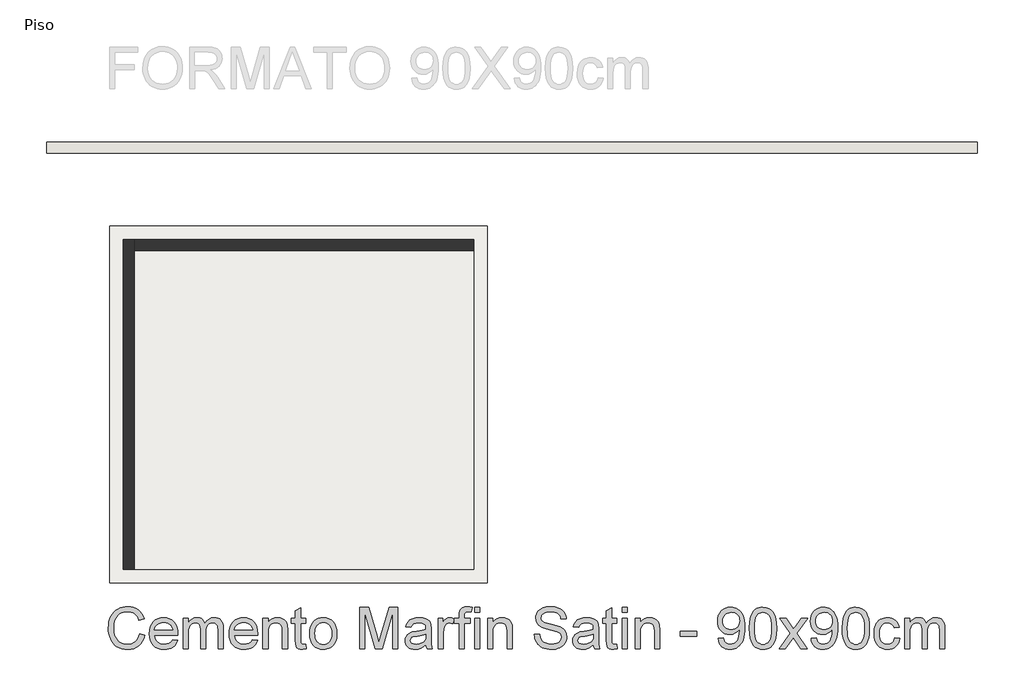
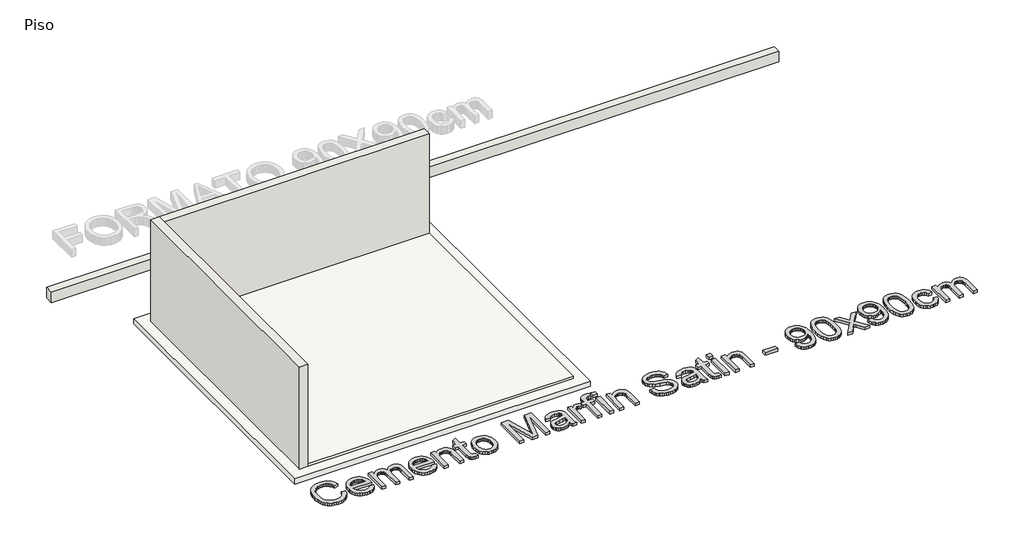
# One storey, part 1 of 2: 3 walls, 2 slabs, 1 proxy.
"""IFC4 building model written with IfcOpenShell, lengths in millimetres."""

from ifc_helpers import new_model, si_unit, frame, origin, origin_with_axes, place, context, project, spatial, polyline, outline, extrude, faceted_brep, element, save

model = new_model("IFC4")

# Units and contexts
model_context = context("Model", 3, world=origin())
ifc_project = project(units=[si_unit("LENGTHUNIT", "METRE", prefix="MILLI")], contexts=[model_context])

# Site, building, storey
site = spatial("IfcSite", under=ifc_project)
building = spatial("IfcBuilding", under=site)
storey = spatial("IfcBuildingStorey", under=building, Name="Piso", Elevation=0.0)

# Proxy
placement = place(None, origin())
element("IfcBuildingElementProxy", 1, Name="600mm Arial", ObjectType="600mm Arial", at=placement, inside=storey, context=model_context, shape_type="SweptSolid", body=[
    extrude(outline(polyline([(93035.0933182, -5211.4328599), (93110.4355508, -5230.8570293), (93095.527133, -5277.7113999), (93075.6707023, -5318.6520674), (93050.8662588, -5353.6790319), (93021.1138024, -5382.7922933), (92987.0847179, -5405.6791519), (92949.4503897, -5422.0269081), (92908.2108181, -5431.8355618), (92863.3660029, -5435.105113), (92817.4221402, -5432.6311066), (92775.9756349, -5425.2090873), (92739.026487, -5412.8390552), (92706.5746965, -5395.5210103), (92678.1742065, -5373.51247), (92653.37896, -5347.0709516), (92632.1889571, -5316.1964551), (92614.6041977, -5280.8889806), (92600.7948273, -5242.6752384), (92590.9309913, -5203.0819386), (92585.0126897, -5162.1090814), (92583.0399225, -5119.7566667), (92585.2702071, -5074.3140433), (92591.9610609, -5031.8696581), (92603.1124839, -4992.4235112), (92618.7244761, -4955.9756025), (92638.4475495, -4923.1283388), (92661.9322164, -4894.484127), (92689.1784767, -4870.0429669), (92720.1863304, -4849.8048587), (92753.9027152, -4833.9353491), (92789.274569, -4822.5999851), (92826.3018919, -4815.7987667), (92864.9846837, -4813.5316939), (92908.0774609, -4816.4655529), (92947.5925857, -4825.2671296), (92983.5300581, -4839.9364242), (93015.8898781, -4860.4734365), (93044.1386168, -4886.3355408), (93067.7428453, -4916.980111), (93086.7025636, -4952.4071471), (93101.0177718, -4992.6166492), (93025.6755391, -5010.5692906), (93013.8113448, -4980.9409944), (92999.5559175, -4955.6261146), (92982.9092572, -4934.6246512), (92963.871364, -4917.9366042), (92942.3318731, -4905.2216827), (92918.1804202, -4896.139596), (92891.417005, -4890.6903439), (92862.0416277, -4888.8739266), (92828.2424694, -4890.8880805), (92797.3311847, -4896.9305423), (92769.3077738, -4907.0013119), (92744.1722364, -4921.1003893), (92722.241871, -4938.5931782), (92703.8339757, -4958.845082), (92688.9485504, -4981.8561008), (92677.5855953, -5007.6262346), (92663.1830152, -5062.7717457), (92658.3821552, -5119.6095139), (92664.065932, -5189.2127874), (92671.170653, -5220.482757), (92681.1172625, -5249.3982818), (92694.0667087, -5275.3845463), (92710.1799401, -5297.8667347), (92729.4569566, -5316.8448471), (92751.8977583, -5332.3188835), (92776.4124948, -5344.3256322), (92801.9113156, -5352.9018812), (92828.3942207, -5358.0476306), (92855.8612102, -5359.7628804), (92888.6165033, -5357.4268297), (92918.7506372, -5350.4186777), (92946.263612, -5338.7384244), (92971.1554275, -5322.3860697), (92992.8374726, -5301.4351901), (93010.721136, -5275.9593619), (93024.8064179, -5245.9585852), (93035.0933182, -5211.4328599)])), origin_with_axes(), (0.0, 0.0, 1.0), 50.0),
    extrude(outline(polyline([(93514.5171343, -5293.8384269), (93588.387839, -5303.2562059), (93577.061672, -5332.8431154), (93561.7715766, -5358.9167518), (93542.5175527, -5381.4771152), (93519.2996003, -5400.5242055), (93492.3568427, -5415.6533525), (93461.9284031, -5426.4598861), (93428.0142817, -5432.9438063), (93390.6144784, -5435.105113), (93343.8658738, -5431.3757093), (93302.2124349, -5420.1874981), (93265.6541616, -5401.5404795), (93234.191054, -5375.4346534), (93208.8899698, -5342.5965868), (93190.8177668, -5303.7528466), (93179.974445, -5258.9034329), (93176.3600044, -5208.0483456), (93180.0112332, -5155.4688114), (93190.9649196, -5109.1248771), (93209.2210636, -5069.0165425), (93234.7796652, -5035.1438078), (93266.1599994, -5008.2332399), (93301.8813411, -4989.0114056), (93341.9436904, -4977.4783051), (93386.3470472, -4973.6339382), (93429.3202628, -4977.469108), (93468.182397, -4988.9746174), (93502.93345, -5008.1504664), (93533.5734217, -5034.996655), (93558.5847988, -5068.7958134), (93576.4500682, -5108.8305715), (93587.1692299, -5155.1009294), (93590.7422837, -5207.6068872), (93590.3008253, -5227.9139733), (93251.702237, -5227.9139733), (93256.0662372, -5257.9791294), (93264.7436537, -5284.3102832), (93277.7344867, -5306.9074347), (93295.038736, -5325.770584), (93315.6999086, -5340.6422137), (93338.7615111, -5351.2648063), (93364.2235437, -5357.6383619), (93392.0860063, -5359.7628804), (93432.1851438, -5355.826543), (93465.956711, -5344.017531), (93493.4007078, -5323.6000803), (93514.5171343, -5293.8384269)]), holes=[polyline([(93251.702237, -5152.5717407), (93515.4000511, -5152.5717407), (93505.2097199, -5112.7669088), (93496.4449313, -5097.1135299), (93485.2337275, -5084.2928424), (93464.6875181, -5068.8417986), (93441.3086173, -5057.8053387), (93415.0970251, -5051.1834628), (93386.0527416, -5048.9761709), (93359.5606394, -5050.7374059), (93335.2666322, -5056.0211111), (93313.1707199, -5064.8272863), (93293.2729024, -5077.1559317), (93276.5756584, -5092.4368301), (93264.0814661, -5110.0997644), (93255.7903257, -5130.1447346), (93251.702237, -5152.5717407)])]), origin_with_axes(), (0.0, 0.0, 1.0), 50.0),
    extrude(outline(polyline([(93666.0845163, -5425.6873339), (93666.0845163, -4983.0517173), (93741.426749, -4983.0517173), (93741.426749, -5055.8923524), (93764.0882799, -5022.4334849), (93793.2245339, -4996.2218928), (93827.8422296, -4979.2809269), (93866.9480857, -4973.6339382), (93908.849845, -4979.3912915), (93926.6829247, -4986.587983), (93942.4374711, -4996.6633511), (93967.5270232, -5024.3096831), (93983.9345602, -5061.1898531), (94011.3969511, -5022.8841404), (94042.722103, -4995.522917), (94077.9100159, -4979.1061829), (94116.9606896, -4973.6339382), (94147.1224147, -4975.9102081), (94173.5961228, -4982.7390176), (94196.3818139, -4994.1203669), (94215.4794879, -5010.0542558), (94230.5764453, -5030.7246254), (94241.3599863, -5056.3154167), (94247.8301109, -5086.8266296), (94249.9868191, -5122.2582643), (94249.9868191, -5425.6873339), (94174.6445865, -5425.6873339), (94174.6445865, -5154.6318799), (94172.897147, -5117.0527341), (94167.6548286, -5091.7240587), (94157.8323793, -5074.3784226), (94142.3445473, -5060.7483947), (94122.4237373, -5051.9192268), (94099.3023539, -5048.9761709), (94077.9514026, -5050.8615661), (94058.4858465, -5056.5177518), (94040.9056857, -5065.9447279), (94025.21092, -5079.1424945), (94012.3028605, -5096.4973276), (94003.082818, -5118.3955034), (93997.5507925, -5144.8370218), (93995.706784, -5175.8218828), (93995.706784, -5425.6873339), (93920.3645514, -5425.6873339), (93920.3645514, -5146.2441704), (93916.0051498, -5103.6434353), (93910.5558977, -5086.9231987), (93902.9269448, -5073.2563825), (93892.8147885, -5062.6337899), (93879.915926, -5055.0462238), (93864.2303575, -5050.4936841), (93845.7580828, -5048.9761709), (93816.7321934, -5053.0228728), (93789.9871723, -5065.1629786), (93767.9142526, -5085.1021828), (93752.9046672, -5112.5461796), (93744.2962285, -5150.6219661), (93741.426749, -5202.4565392), (93741.426749, -5425.6873339), (93666.0845163, -5425.6873339)])), origin_with_axes(), (0.0, 0.0, 1.0), 50.0),
    extrude(outline(polyline([(94672.9039607, -5293.8384269), (94746.7746654, -5303.2562059), (94735.4484985, -5332.8431154), (94720.158403, -5358.9167518), (94700.9043791, -5381.4771152), (94677.6864267, -5400.5242055), (94650.7436691, -5415.6533525), (94620.3152295, -5426.4598861), (94586.4011081, -5432.9438063), (94549.0013048, -5435.105113), (94502.2527002, -5431.3757093), (94460.5992613, -5420.1874981), (94424.0409881, -5401.5404795), (94392.5778804, -5375.4346534), (94367.2767962, -5342.5965868), (94349.2045932, -5303.7528466), (94338.3612714, -5258.9034329), (94334.7468308, -5208.0483456), (94338.3980596, -5155.4688114), (94349.351746, -5109.1248771), (94367.60789, -5069.0165425), (94393.1664916, -5035.1438078), (94424.5468258, -5008.2332399), (94460.2681675, -4989.0114056), (94500.3305168, -4977.4783051), (94544.7338736, -4973.6339382), (94587.7070892, -4977.469108), (94626.5692235, -4988.9746174), (94661.3202764, -5008.1504664), (94691.9602481, -5034.996655), (94716.9716252, -5068.7958134), (94734.8368946, -5108.8305715), (94745.5560563, -5155.1009294), (94749.1291101, -5207.6068872), (94748.6876518, -5227.9139733), (94410.0890634, -5227.9139733), (94414.4530636, -5257.9791294), (94423.1304801, -5284.3102832), (94436.1213131, -5306.9074347), (94453.4255624, -5325.770584), (94474.086735, -5340.6422137), (94497.1483376, -5351.2648063), (94522.6103701, -5357.6383619), (94550.4728328, -5359.7628804), (94590.5719702, -5355.826543), (94624.3435374, -5344.017531), (94651.7875342, -5323.6000803), (94672.9039607, -5293.8384269)]), holes=[polyline([(94410.0890634, -5152.5717407), (94673.7868775, -5152.5717407), (94663.5965463, -5112.7669088), (94654.8317577, -5097.1135299), (94643.6205539, -5084.2928424), (94623.0743445, -5068.8417986), (94599.6954437, -5057.8053387), (94573.4838516, -5051.1834628), (94544.439568, -5048.9761709), (94517.9474659, -5050.7374059), (94493.6534586, -5056.0211111), (94471.5575463, -5064.8272863), (94451.6597288, -5077.1559317), (94434.9624848, -5092.4368301), (94422.4682925, -5110.0997644), (94414.1771521, -5130.1447346), (94410.0890634, -5152.5717407)])]), origin_with_axes(), (0.0, 0.0, 1.0), 50.0),
    extrude(outline(polyline([(94824.4713428, -5425.6873339), (94824.4713428, -4983.0517173), (94899.8135754, -4983.0517173), (94899.8135754, -5044.8558925), (94925.9883793, -5013.6962875), (94957.4238958, -4991.4394268), (94994.1201248, -4978.0853104), (95036.0770664, -4973.6339382), (95073.2147538, -4977.2207877), (95107.2254443, -4987.9813361), (95135.5891461, -5004.572814), (95155.7858676, -5025.6524524), (95169.4894719, -5051.1650687), (95178.3738221, -5081.0554808), (95182.3469477, -5153.8961159), (95182.3469477, -5425.6873339), (95107.0047151, -5425.6873339), (95107.0047151, -5164.049659), (95104.8342113, -5125.0909557), (95098.3227, -5097.3894414), (95086.3113528, -5077.5422078), (95067.6413416, -5062.1463463), (95043.7106178, -5052.2687147), (95015.9171331, -5048.9761709), (94993.0394715, -5050.8247779), (94971.7896877, -5056.370599), (94952.1677818, -5065.6136341), (94934.1737537, -5078.5538833), (94919.1411757, -5096.6628745), (94908.40362, -5121.4121357), (94901.9610865, -5152.8016669), (94899.8135754, -5190.8314682), (94899.8135754, -5425.6873339), (94824.4713428, -5425.6873339)])), origin_with_axes(), (0.0, 0.0, 1.0), 50.0),
    extrude(outline(polyline([(95446.0447618, -5362.8530891), (95455.4625409, -5427.8946259), (95399.1030192, -5435.105113), (95362.9402191, -5431.978116), (95335.9744689, -5422.5971252), (95316.9181815, -5408.1393628), (95304.4837701, -5389.7820512), (95297.641165, -5358.2545642), (95295.3602966, -5304.2862755), (95295.3602966, -5058.3939499), (95238.8536221, -5058.3939499), (95238.8536221, -4983.0517173), (95295.3602966, -4983.0517173), (95295.3602966, -4875.4830219), (95370.7025292, -4831.1900297), (95370.7025292, -4983.0517173), (95446.0447618, -4983.0517173), (95446.0447618, -5058.3939499), (95370.7025292, -5058.3939499), (95370.7025292, -5302.0789835), (95374.6756547, -5340.9273222), (95387.5515246, -5354.6861089), (95398.4224375, -5358.4936875), (95413.2296878, -5359.7628804), (95446.0447618, -5362.8530891)])), origin_with_axes(), (0.0, 0.0, 1.0), 50.0),
    extrude(outline(polyline([(95502.5514363, -5204.3695256), (95506.6257294, -5147.0443137), (95518.8486087, -5097.6469588), (95539.2200741, -5056.1774609), (95567.7401258, -5022.63582), (95596.4533155, -5001.1974967), (95628.1463494, -4985.8844087), (95662.8192275, -4976.6965559), (95700.4719497, -4973.6339382), (95742.0380166, -4977.363342), (95779.6217609, -4988.5515532), (95813.2231827, -5007.1985718), (95842.8422818, -5033.3043979), (95867.0167274, -5065.9861146), (95884.2841886, -5104.3608052), (95894.6446653, -5148.4284697), (95898.0981575, -5198.1891081), (95896.5714472, -5238.5181718), (95891.9913164, -5274.3038929), (95884.357765, -5305.5462713), (95873.670793, -5332.2453071), (95860.0637577, -5355.3069097), (95843.6700163, -5375.6369885), (95824.4895688, -5393.2355434), (95802.5224151, -5408.1025746), (95778.623881, -5419.9161851), (95753.6492921, -5428.3544784), (95727.5986483, -5433.4174543), (95700.4719497, -5435.105113), (95658.2988775, -5431.3895048), (95620.3656452, -5420.2426804), (95586.672253, -5401.6646396), (95557.2187008, -5375.6553826), (95533.3017725, -5342.6563676), (95516.2182524, -5303.1090531), (95505.9681403, -5257.0134391), (95502.5514363, -5204.3695256)]), holes=[polyline([(95577.8936689, -5204.2223728), (95580.0733697, -5240.7668505), (95586.6124722, -5272.4093006), (95597.5109763, -5299.1497232), (95612.768882, -5320.9881181), (95631.3285287, -5337.9520766), (95652.1322555, -5350.0691898), (95675.1800625, -5357.3394577), (95700.4719497, -5359.7628804), (95725.6350781, -5357.3256622), (95748.5909146, -5350.0140075), (95769.3394592, -5337.8279164), (95787.8807117, -5320.7673889), (95803.1386175, -5298.7128633), (95814.0371216, -5271.5447779), (95820.5762241, -5239.2631329), (95822.7559249, -5201.8679281), (95820.5624285, -5166.4822786), (95813.9819393, -5135.667563), (95803.0144573, -5109.4237812), (95787.6599825, -5087.7509332), (95769.0497521, -5070.7869747), (95748.3150031, -5058.6698614), (95725.4557357, -5051.3995935), (95700.4719497, -5048.9761709), (95675.1800625, -5051.3903965), (95652.1322555, -5058.6330732), (95631.3285287, -5070.7042012), (95612.768882, -5087.6037804), (95597.5109763, -5109.3777959), (95586.6124722, -5136.0722332), (95580.0733697, -5167.6870922), (95577.8936689, -5204.2223728)])]), origin_with_axes(), (0.0, 0.0, 1.0), 50.0),
    extrude(outline(polyline([(96227.7204252, -5425.6873339), (96227.7204252, -4822.949473), (96357.3620403, -4822.949473), (96480.676085, -5247.7796011), (96505.5449079, -5336.5127383), (96532.47387, -5240.4219612), (96653.7277756, -4822.949473), (96783.3693907, -4822.949473), (96783.3693907, -5425.6873339), (96708.0271581, -5425.6873339), (96708.0271581, -4898.2917056), (96556.6069289, -5425.6873339), (96454.482887, -5425.6873339), (96303.0626578, -4898.2917056), (96303.0626578, -5425.6873339), (96227.7204252, -5425.6873339)])), origin_with_axes(), (0.0, 0.0, 1.0), 50.0),
    extrude(outline(polyline([(97188.333891, -5369.1806595), (97152.3366377, -5400.0459589), (97115.2725267, -5420.2426804), (97076.2954293, -5431.3895048), (97034.559217, -5435.105113), (97001.0129776, -5432.8702299), (96971.5962135, -5426.1655805), (96946.3089249, -5414.9911649), (96925.1511116, -5399.3469831), (96908.4446705, -5380.2263164), (96896.5114983, -5358.6224462), (96889.351595, -5334.5353726), (96886.9649605, -5307.9650955), (96890.5702041, -5276.7319141), (96901.3859347, -5248.3682122), (96918.0693832, -5224.0880006), (96939.2777802, -5205.1052896), (96964.2017854, -5190.7578918), (96992.0320583, -5180.3836195), (97057.2207479, -5169.0528541), (97134.2552377, -5157.1334774), (97187.8924326, -5143.1539616), (97188.333891, -5126.3785426), (97183.1467548, -5092.7541283), (97176.6628347, -5080.3013228), (97167.5853464, -5070.754785), (97151.8951793, -5061.2266413), (97132.7837097, -5054.4208244), (97084.2968627, -5048.9761709), (97039.4152593, -5052.5998085), (97008.0717133, -5063.4707215), (96986.6977694, -5083.5754725), (96971.7249722, -5114.9006244), (96896.3827396, -5105.4828453), (96909.4609445, -5064.2800619), (96928.9770844, -5031.9064463), (96956.752175, -5007.147988), (96994.6072323, -4988.7906765), (97040.9051814, -4977.4231228), (97094.0089474, -4973.6339382), (97144.9422096, -4976.9816644), (97185.3172586, -4987.0248429), (97215.7594937, -5002.1263988), (97236.8943143, -5020.6492572), (97250.9106183, -5043.5499114), (97259.9973036, -5071.7848546), (97263.6761236, -5137.7093081), (97263.6761236, -5231.4456405), (97267.5020963, -5362.3380544), (97273.1674791, -5394.6932758), (97282.5116817, -5425.6873339), (97207.1694491, -5425.6873339), (97195.1029197, -5399.4941359), (97188.333891, -5369.1806595)]), holes=[polyline([(97188.333891, -5218.4961942), (97137.7133284, -5231.0409703), (97066.7856798, -5241.5991835), (97001.9648722, -5253.8128658), (96985.0974827, -5262.1637871), (96972.607889, -5273.6784935), (96964.8823671, -5287.4740683), (96962.3071931, -5302.6675947), (96967.9173936, -5325.0716082), (96984.7479948, -5343.4289198), (97012.431115, -5355.6793902), (97050.598872, -5359.7628804), (97091.0658914, -5355.2563259), (97126.8240214, -5341.7366626), (97155.8131226, -5321.8158526), (97175.9730559, -5298.105858), (97184.9125884, -5273.6784935), (97187.8924326, -5239.83335), (97188.333891, -5218.4961942)])]), origin_with_axes(), (0.0, 0.0, 1.0), 50.0),
    extrude(outline(polyline([(97668.6406239, -5425.6873339), (97668.6406239, -5058.3939499), (97602.7161703, -5058.3939499), (97602.7161703, -4996.8840803), (97602.7161703, -4983.0517173), (97668.6406239, -4983.0517173), (97668.6406239, -4938.4644195), (97670.6271866, -4901.5658554), (97676.586875, -4875.6301747), (97691.7436132, -4850.5774109), (97715.1409081, -4830.7485713), (97747.8824056, -4817.8359133), (97791.0717519, -4813.5316939), (97823.7764612, -4815.5918331), (97859.7921086, -4821.7722506), (97848.7556487, -4892.4055937), (97805.3455733, -4888.8739266), (97776.70596, -4892.0009235), (97757.8887959, -4901.3819144), (97747.4593413, -4919.2977676), (97743.9828565, -4948.0293514), (97743.9828565, -4983.0517173), (97828.7428682, -4983.0517173), (97828.7428682, -5058.3939499), (97743.9828565, -5058.3939499), (97743.9828565, -5425.6873339), (97668.6406239, -5425.6873339)])), origin_with_axes(), (0.0, 0.0, 1.0), 50.0),
    extrude(outline(polyline([(97367.2716934, -5425.6873339), (97367.2716934, -4983.0517173), (97433.196147, -4983.0517173), (97433.196147, -5048.5347125), (97457.549935, -5010.5692906), (97479.9907367, -4988.2020653), (97502.5051149, -4977.27597), (97527.0796321, -4973.6339382), (97564.6035956, -4979.4464738), (97602.7161703, -4996.8840803), (97577.5530419, -5064.4272147), (97551.0655382, -5052.8389318), (97524.5780346, -5048.9761709), (97502.0820506, -5052.691779), (97481.9772995, -5063.8386035), (97465.7353094, -5081.5705156), (97454.8276083, -5105.0413869), (97445.6673466, -5147.1270872), (97442.613926, -5193.0387602), (97442.613926, -5425.6873339), (97367.2716934, -5425.6873339)])), origin_with_axes(), (0.0, 0.0, 1.0), 50.0),
    extrude(outline(polyline([(97894.6673217, -4898.2917056), (97894.6673217, -4822.949473), (97970.0095543, -4822.949473), (97970.0095543, -4898.2917056), (97894.6673217, -4898.2917056)])), origin_with_axes(), (0.0, 0.0, 1.0), 50.0),
    extrude(outline(polyline([(97894.6673217, -5425.6873339), (97894.6673217, -4983.0517173), (97970.0095543, -4983.0517173), (97970.0095543, -5425.6873339), (97894.6673217, -5425.6873339)])), origin_with_axes(), (0.0, 0.0, 1.0), 50.0),
    extrude(outline(polyline([(98083.0229032, -5425.6873339), (98083.0229032, -4983.0517173), (98158.3651359, -4983.0517173), (98158.3651359, -5044.8558925), (98184.5399398, -5013.6962875), (98215.9754563, -4991.4394268), (98252.6716853, -4978.0853104), (98294.6286269, -4973.6339382), (98331.7663143, -4977.2207877), (98365.7770047, -4987.9813361), (98394.1407066, -5004.572814), (98414.3374281, -5025.6524524), (98428.0410324, -5051.1650687), (98436.9253826, -5081.0554808), (98440.8985081, -5153.8961159), (98440.8985081, -5425.6873339), (98365.5562755, -5425.6873339), (98365.5562755, -5164.049659), (98363.3857718, -5125.0909557), (98356.8742604, -5097.3894414), (98344.8629133, -5077.5422078), (98326.1929021, -5062.1463463), (98302.2621783, -5052.2687147), (98274.4686935, -5048.9761709), (98251.591032, -5050.8247779), (98230.3412482, -5056.370599), (98210.7193423, -5065.6136341), (98192.7253142, -5078.5538833), (98177.6927362, -5096.6628745), (98166.9551804, -5121.4121357), (98160.512647, -5152.8016669), (98158.3651359, -5190.8314682), (98158.3651359, -5425.6873339), (98083.0229032, -5425.6873339)])), origin_with_axes(), (0.0, 0.0, 1.0), 50.0),
    extrude(outline(polyline([(98761.1029967, -5218.4961942), (98836.4452294, -5218.4961942), (98845.0904562, -5260.305983), (98860.725441, -5293.9120032), (98885.1160173, -5320.5834479), (98920.0280187, -5341.5895098), (98962.7023301, -5355.2195377), (99010.3798367, -5359.7628804), (99052.3551723, -5356.3231837), (99089.1065836, -5346.0040938), (99118.8866312, -5329.6701332), (99139.9478754, -5308.1858247), (99152.4742573, -5283.5193369), (99156.649718, -5257.6388385), (99153.522721, -5232.4205278), (99144.1417301, -5210.6235195), (99125.0854428, -5192.0270847), (99092.9325564, -5176.410494), (98983.2301454, -5147.642122), (98911.2172449, -5128.6042287), (98865.140025, -5110.4860405), (98827.6344556, -5085.138971), (98801.0549814, -5054.4208244), (98785.2176615, -5018.9937883), (98779.9385549, -4979.5200502), (98781.5710313, -4957.083847), (98786.4684603, -4935.3926049), (98794.6308421, -4914.4463237), (98806.0581766, -4894.2450037), (98820.621705, -4875.6117806), (98838.1926688, -4859.3697905), (98858.7710679, -4845.5190334), (98882.3569024, -4834.0595093), (98935.3686979, -4818.6636478), (98994.0458761, -4813.5316939), (99057.6158849, -4818.9027711), (99113.2396425, -4835.0160025), (99137.5750365, -4847.0181526), (99158.9305863, -4861.5402943), (99177.306292, -4878.5824277), (99192.7021535, -4898.1445528), (99204.9986092, -4919.6564525), (99214.0760974, -4942.5479097), (99219.9346182, -4966.8189243), (99222.5741715, -4992.4694964), (99147.2319389, -4992.4694964), (99142.1919556, -4968.428408), (99133.3995759, -4947.5143166), (99120.8547998, -4929.7272221), (99104.5576274, -4915.0671246), (99084.2045561, -4903.6076005), (99059.492083, -4895.4222261), (99030.4202084, -4890.5110014), (98996.9889321, -4888.8739266), (98962.490798, -4890.4926073), (98933.0142531, -4895.3486497), (98908.5592975, -4903.4420536), (98889.1259311, -4914.772819), (98874.3186808, -4928.3936499), (98863.7420734, -4943.35725), (98857.396109, -4959.6636195), (98855.2807875, -4977.3127582), (98856.7799066, -4992.4970876), (98861.277264, -5006.2650712), (98868.7728597, -5018.6167092), (98879.2666936, -5029.5520015), (98895.7845952, -5039.9078797), (98921.7938522, -5050.3741224), (99002.2864328, -5071.6377018), (99085.3541873, -5091.8344233), (99135.6068678, -5109.4559709), (99178.5570908, -5136.7896031), (99195.1623643, -5152.8568492), (99208.5210793, -5170.5243821), (99218.7895855, -5189.7002311), (99226.1242328, -5210.2924257), (99231.9919506, -5255.7258522), (99230.3042919, -5279.2932925), (99225.241316, -5302.170954), (99216.8030227, -5324.3588369), (99204.9894121, -5345.856941), (99190.0074179, -5365.8329333), (99172.0639736, -5383.4544809), (99151.1590792, -5398.7215837), (99127.2927347, -5411.6342417), (99101.1593175, -5421.9027479), (99073.4532048, -5429.2373952), (99013.3228926, -5435.105113), (98974.7826551, -5433.5232204), (98939.5073703, -5428.7775427), (98907.4970382, -5420.8680798), (98878.7516588, -5409.7948317), (98853.0964882, -5395.5394044), (98830.3567823, -5378.0834037), (98810.5325413, -5357.4268297), (98793.6237651, -5333.5696823), (98780.0029343, -5307.2845138), (98770.0425292, -5279.3438762), (98763.7425501, -5249.7477697), (98761.1029967, -5218.4961942)])), origin_with_axes(), (0.0, 0.0, 1.0), 50.0),
    extrude(outline(polyline([(99618.1208927, -5369.1806595), (99582.1236395, -5400.0459589), (99545.0595285, -5420.2426804), (99506.0824311, -5431.3895048), (99464.3462187, -5435.105113), (99430.7999793, -5432.8702299), (99401.3832153, -5426.1655805), (99376.0959266, -5414.9911649), (99354.9381134, -5399.3469831), (99338.2316723, -5380.2263164), (99326.2985, -5358.6224462), (99319.1385967, -5334.5353726), (99316.7519623, -5307.9650955), (99320.3572058, -5276.7319141), (99331.1729365, -5248.3682122), (99347.856385, -5224.0880006), (99369.064782, -5205.1052896), (99393.9887872, -5190.7578918), (99421.8190601, -5180.3836195), (99487.0077496, -5169.0528541), (99564.0422394, -5157.1334774), (99617.6794343, -5143.1539616), (99618.1208927, -5126.3785426), (99612.9337566, -5092.7541283), (99606.4498364, -5080.3013228), (99597.3723482, -5070.754785), (99581.6821811, -5061.2266413), (99562.5707114, -5054.4208244), (99514.0838645, -5048.9761709), (99469.2022611, -5052.5998085), (99437.8587151, -5063.4707215), (99416.4847712, -5083.5754725), (99401.511974, -5114.9006244), (99326.1697413, -5105.4828453), (99339.2479463, -5064.2800619), (99358.7640861, -5031.9064463), (99386.5391767, -5007.147988), (99424.3942341, -4988.7906765), (99470.6921831, -4977.4231228), (99523.7959492, -4973.6339382), (99574.7292114, -4976.9816644), (99615.1042604, -4987.0248429), (99645.5464955, -5002.1263988), (99666.6813161, -5020.6492572), (99680.6976201, -5043.5499114), (99689.7843054, -5071.7848546), (99693.4631253, -5137.7093081), (99693.4631253, -5231.4456405), (99697.2890981, -5362.3380544), (99702.9544808, -5394.6932758), (99712.2986835, -5425.6873339), (99636.9564509, -5425.6873339), (99624.8899214, -5399.4941359), (99618.1208927, -5369.1806595)]), holes=[polyline([(99618.1208927, -5218.4961942), (99567.5003302, -5231.0409703), (99496.5726815, -5241.5991835), (99431.751874, -5253.8128658), (99414.8844845, -5262.1637871), (99402.3948907, -5273.6784935), (99394.6693688, -5287.4740683), (99392.0941949, -5302.6675947), (99397.7043953, -5325.0716082), (99414.5349966, -5343.4289198), (99442.2181167, -5355.6793902), (99480.3858737, -5359.7628804), (99520.8528932, -5355.2563259), (99556.6110231, -5341.7366626), (99585.6001243, -5321.8158526), (99605.7600577, -5298.105858), (99614.6995902, -5273.6784935), (99617.6794343, -5239.83335), (99618.1208927, -5218.4961942)])]), origin_with_axes(), (0.0, 0.0, 1.0), 50.0),
    extrude(outline(polyline([(99957.1609395, -5362.8530891), (99966.5787185, -5427.8946259), (99910.2191969, -5435.105113), (99874.0563968, -5431.978116), (99847.0906465, -5422.5971252), (99828.0343592, -5408.1393628), (99815.5999477, -5389.7820512), (99808.7573426, -5358.2545642), (99806.4764742, -5304.2862755), (99806.4764742, -5058.3939499), (99749.9697998, -5058.3939499), (99749.9697998, -4983.0517173), (99806.4764742, -4983.0517173), (99806.4764742, -4875.4830219), (99881.8187069, -4831.1900297), (99881.8187069, -4983.0517173), (99957.1609395, -4983.0517173), (99957.1609395, -5058.3939499), (99881.8187069, -5058.3939499), (99881.8187069, -5302.0789835), (99885.7918324, -5340.9273222), (99898.6677022, -5354.6861089), (99909.5386152, -5358.4936875), (99924.3458655, -5359.7628804), (99957.1609395, -5362.8530891)])), origin_with_axes(), (0.0, 0.0, 1.0), 50.0),
    extrude(outline(polyline([(100032.5031721, -4898.2917056), (100032.5031721, -4822.949473), (100107.8454047, -4822.949473), (100107.8454047, -4898.2917056), (100032.5031721, -4898.2917056)])), origin_with_axes(), (0.0, 0.0, 1.0), 50.0),
    extrude(outline(polyline([(100032.5031721, -5425.6873339), (100032.5031721, -4983.0517173), (100107.8454047, -4983.0517173), (100107.8454047, -5425.6873339), (100032.5031721, -5425.6873339)])), origin_with_axes(), (0.0, 0.0, 1.0), 50.0),
    extrude(outline(polyline([(100220.8587536, -5425.6873339), (100220.8587536, -4983.0517173), (100296.2009862, -4983.0517173), (100296.2009862, -5044.8558925), (100322.3757902, -5013.6962875), (100353.8113067, -4991.4394268), (100390.5075357, -4978.0853104), (100432.4644772, -4973.6339382), (100469.6021647, -4977.2207877), (100503.6128551, -4987.9813361), (100531.9765569, -5004.572814), (100552.1732785, -5025.6524524), (100565.8768828, -5051.1650687), (100574.761233, -5081.0554808), (100578.7343585, -5153.8961159), (100578.7343585, -5425.6873339), (100503.3921259, -5425.6873339), (100503.3921259, -5164.049659), (100501.2216221, -5125.0909557), (100494.7101108, -5097.3894414), (100482.6987637, -5077.5422078), (100464.0287524, -5062.1463463), (100440.0980286, -5052.2687147), (100412.3045439, -5048.9761709), (100389.4268823, -5050.8247779), (100368.1770986, -5056.370599), (100348.5551927, -5065.6136341), (100330.5611646, -5078.5538833), (100315.5285865, -5096.6628745), (100304.7910308, -5121.4121357), (100298.3484974, -5152.8016669), (100296.2009862, -5190.8314682), (100296.2009862, -5425.6873339), (100220.8587536, -5425.6873339)])), origin_with_axes(), (0.0, 0.0, 1.0), 50.0),
    extrude(outline(polyline([(100880.103289, -5246.7495315), (100880.103289, -5171.4072989), (101115.5477659, -5171.4072989), (101115.5477659, -5246.7495315), (100880.103289, -5246.7495315)])), origin_with_axes(), (0.0, 0.0, 1.0), 50.0),
    extrude(outline(polyline([(101426.3344754, -5275.0028687), (101501.676708, -5265.5850896), (101514.5525779, -5308.3513716), (101524.0255392, -5324.6163543), (101535.5218516, -5337.4692315), (101548.9127562, -5347.2227029), (101564.0694944, -5354.1894682), (101599.6804715, -5359.7628804), (101631.6310228, -5356.1760309), (101660.6753063, -5345.4154826), (101684.8083652, -5328.6584577), (101702.0252426, -5307.0821787), (101715.0666593, -5278.7184768), (101726.6733363, -5241.5991835), (101734.8403166, -5198.9984485), (101737.5626433, -5154.1904215), (101737.1211849, -5139.4751417), (101711.0199574, -5171.3337225), (101676.8621141, -5196.5704273), (101637.1124645, -5213.0147525), (101594.235818, -5218.4961942), (101558.4454984, -5215.1484681), (101525.5338554, -5205.1052896), (101495.500889, -5188.3666588), (101468.3465993, -5164.9325757), (101445.8460167, -5136.026248), (101429.7741721, -5102.8708832), (101420.1310653, -5065.4664813), (101416.9166963, -5023.8130424), (101420.2874151, -4980.770849), (101430.3995715, -4942.1432395), (101447.2531654, -4907.9302139), (101470.8481968, -4878.1317723), (101499.5199998, -4853.9895164), (101531.6039083, -4836.7450478), (101567.0999223, -4826.3983667), (101606.0080419, -4822.949473), (101634.7350271, -4824.9176417), (101662.2020166, -4830.8221477), (101688.4090102, -4840.6629911), (101713.356008, -4854.4401718), (101736.210677, -4871.8593843), (101756.1406841, -4892.6263229), (101773.1460293, -4916.7409877), (101787.2267127, -4944.2033786), (101798.2677711, -4976.5953883), (101806.1542413, -5015.4989093), (101810.8861235, -5060.9139416), (101812.4634175, -5112.8404852), (101810.890722, -5167.3743925), (101806.1726354, -5216.049779), (101798.3091578, -5258.8666447), (101787.3002891, -5295.8249896), (101773.187416, -5327.8261247), (101756.0119254, -5355.7713607), (101735.7738171, -5379.6606978), (101712.4730913, -5399.4941359), (101686.5787973, -5415.0739384), (101658.5599849, -5426.2023687), (101628.4166539, -5432.8794269), (101596.1488044, -5435.105113), (101562.3128579, -5432.4793553), (101531.732667, -5424.602082), (101504.4082318, -5411.4732933), (101480.3395523, -5393.0929891), (101460.1336337, -5369.9578102), (101444.3974814, -5342.5643971), (101433.1310953, -5310.91275), (101426.3344754, -5275.0028687)]), holes=[polyline([(101737.1211849, -5022.0472088), (101735.0886369, -4995.0446704), (101728.9909928, -4970.9851879), (101718.8282527, -4949.8687614), (101704.6004166, -4931.6953908), (101687.0064601, -4917.0812785), (101666.7453593, -4906.6426269), (101643.8171139, -4900.379436), (101618.2217241, -4898.2917056), (101591.8077968, -4900.5403843), (101567.8954672, -4907.2864204), (101546.484735, -4918.5298139), (101527.5756005, -4934.2705648), (101512.1245567, -4953.588968), (101501.0880968, -4975.5653187), (101494.4662209, -5000.1996168), (101492.2589289, -5027.4918623), (101494.3466593, -5051.9698106), (101500.6098502, -5074.0473288), (101511.0485018, -5093.724417), (101525.6626141, -5111.0010752), (101543.8451817, -5125.067963), (101564.9891994, -5135.11574), (101589.0946671, -5141.1444062), (101616.1615849, -5143.1539616), (101641.4028883, -5141.1444062), (101664.298944, -5135.11574), (101684.8497519, -5125.067963), (101703.0553122, -5111.0010752), (101717.9591315, -5093.3841262), (101728.6047167, -5072.6861655), (101734.9920679, -5048.907193), (101737.1211849, -5022.0472088)])]), origin_with_axes(), (0.0, 0.0, 1.0), 50.0),
    extrude(outline(polyline([(101878.3878711, -5129.1744458), (101883.9244951, -5032.6973926), (101890.8452751, -4991.7843162), (101900.5343672, -4955.7548733), (101912.9503845, -4924.3147583), (101928.0519404, -4897.1696656), (101945.8390349, -4874.3195951), (101966.3116679, -4855.764547), (101989.5388174, -4841.4079521), (102015.5894612, -4831.1532415), (102044.4635993, -4825.0004151), (102076.1612317, -4822.949473), (102122.5879395, -4827.8055154), (102164.1586049, -4842.3736424), (102198.9234535, -4866.083637), (102224.9327105, -4898.365282), (102244.5776091, -4938.9426661), (102260.2493821, -4987.5398777), (102270.5132897, -5049.2520824), (102273.9345923, -5129.1744458), (102268.4531506, -5225.0996761), (102261.6013484, -5265.8747967), (102252.0088254, -5301.8582543), (102239.6893771, -5333.3121649), (102224.656799, -5360.4986444), (102206.9110913, -5383.4176927), (102186.4522538, -5402.0693098), (102163.1975132, -5416.5224737), (102137.064096, -5426.8461622), (102108.0520021, -5433.0403753), (102076.1612317, -5435.105113), (102034.6641426, -5431.5182635), (101997.8759431, -5420.7577152), (101965.7966331, -5402.8234679), (101938.4262127, -5377.7155218), (101912.1594382, -5332.3280806), (101893.3974565, -5275.7754209), (101882.1402674, -5208.0575426), (101878.3878711, -5129.1744458)]), holes=[polyline([(101953.7301037, -5129.027293), (101955.9373957, -5194.5240837), (101962.5592716, -5247.5404778), (101973.5957314, -5288.0764751), (101989.0467752, -5316.1320758), (102007.7351806, -5335.2205528), (102028.4837251, -5348.8551792), (102051.2924088, -5357.0359551), (102076.1612317, -5359.7628804), (102101.0300546, -5357.026758), (102123.8387383, -5348.818391), (102144.5872828, -5335.1377793), (102163.2756881, -5315.984923), (102178.7267319, -5287.8833371), (102189.7631918, -5247.3565368), (102196.3850677, -5194.4045221), (102198.5923597, -5129.027293), (102196.4586441, -5065.2641462), (102190.0574974, -5013.1812527), (102179.3889195, -4972.7786126), (102164.4529105, -4944.0562258), (102146.0772049, -4924.0342482), (102125.089537, -4909.7328357), (102101.4899071, -4901.1519881), (102075.2783149, -4898.2917056), (102050.5382507, -4900.8116973), (102028.1158431, -4908.3716723), (102008.0110921, -4920.9716306), (101990.2239976, -4938.6115723), (101974.257919, -4969.8815419), (101962.8535772, -5012.0408185), (101956.0109721, -5065.0894022), (101953.7301037, -5129.027293)])]), origin_with_axes(), (0.0, 0.0, 1.0), 50.0),
    extrude(outline(polyline([(102311.6057086, -5425.6873339), (102472.5908697, -5203.1923032), (102321.0234877, -4983.0517173), (102411.6696113, -4983.0517173), (102484.8045519, -5089.0017319), (102518.9440011, -5139.0336833), (102548.5217135, -5098.1252054), (102631.8101972, -4983.0517173), (102722.4563208, -4983.0517173), (102563.2369933, -5203.1923032), (102716.5702089, -5425.6873339), (102625.9240853, -5425.6873339), (102533.6592809, -5291.9254405), (102516.7367091, -5267.498076), (102402.2518322, -5425.6873339), (102311.6057086, -5425.6873339)])), origin_with_axes(), (0.0, 0.0, 1.0), 50.0),
    extrude(outline(polyline([(102773.0768833, -5275.0028687), (102848.419116, -5265.5850896), (102861.2949858, -5308.3513716), (102870.7679472, -5324.6163543), (102882.2642595, -5337.4692315), (102895.6551641, -5347.2227029), (102910.8119023, -5354.1894682), (102946.4228795, -5359.7628804), (102978.3734308, -5356.1760309), (103007.4177143, -5345.4154826), (103031.5507732, -5328.6584577), (103048.7676505, -5307.0821787), (103061.8090673, -5278.7184768), (103073.4157442, -5241.5991835), (103081.5827245, -5198.9984485), (103084.3050513, -5154.1904215), (103083.8635929, -5139.4751417), (103057.7623653, -5171.3337225), (103023.6045221, -5196.5704273), (102983.8548725, -5213.0147525), (102940.9782259, -5218.4961942), (102905.1879063, -5215.1484681), (102872.2762633, -5205.1052896), (102842.243297, -5188.3666588), (102815.0890072, -5164.9325757), (102792.5884247, -5136.026248), (102776.51658, -5102.8708832), (102766.8734732, -5065.4664813), (102763.6591043, -5023.8130424), (102767.0298231, -4980.770849), (102777.1419794, -4942.1432395), (102793.9955733, -4907.9302139), (102817.5906048, -4878.1317723), (102846.2624078, -4853.9895164), (102878.3463163, -4836.7450478), (102913.8423303, -4826.3983667), (102952.7504498, -4822.949473), (102981.4774351, -4824.9176417), (103008.9444246, -4830.8221477), (103035.1514182, -4840.6629911), (103060.098416, -4854.4401718), (103082.9530849, -4871.8593843), (103102.883092, -4892.6263229), (103119.8884373, -4916.7409877), (103133.9691206, -4944.2033786), (103145.010179, -4976.5953883), (103152.8966493, -5015.4989093), (103157.6285314, -5060.9139416), (103159.2058255, -5112.8404852), (103157.63313, -5167.3743925), (103152.9150434, -5216.049779), (103145.0515657, -5258.8666447), (103134.042697, -5295.8249896), (103119.929824, -5327.8261247), (103102.7543333, -5355.7713607), (103082.5162251, -5379.6606978), (103059.2154992, -5399.4941359), (103033.3212053, -5415.0739384), (103005.3023928, -5426.2023687), (102975.1590618, -5432.8794269), (102942.8912123, -5435.105113), (102909.0552658, -5432.4793553), (102878.475075, -5424.602082), (102851.1506398, -5411.4732933), (102827.0819602, -5393.0929891), (102806.8760417, -5369.9578102), (102791.1398893, -5342.5643971), (102779.8735032, -5310.91275), (102773.0768833, -5275.0028687)]), holes=[polyline([(103083.8635929, -5022.0472088), (103081.8310449, -4995.0446704), (103075.7334008, -4970.9851879), (103065.5706607, -4949.8687614), (103051.3428245, -4931.6953908), (103033.7488681, -4917.0812785), (103013.4877672, -4906.6426269), (102990.5595218, -4900.379436), (102964.964132, -4898.2917056), (102938.5502048, -4900.5403843), (102914.6378751, -4907.2864204), (102893.227143, -4918.5298139), (102874.3180084, -4934.2705648), (102858.8669646, -4953.588968), (102847.8305048, -4975.5653187), (102841.2086289, -5000.1996168), (102839.0013369, -5027.4918623), (102841.0890672, -5051.9698106), (102847.3522582, -5074.0473288), (102857.7909098, -5093.724417), (102872.405022, -5111.0010752), (102890.5875897, -5125.067963), (102911.7316073, -5135.11574), (102935.8370751, -5141.1444062), (102962.9039929, -5143.1539616), (102988.1452963, -5141.1444062), (103011.0413519, -5135.11574), (103031.5921599, -5125.067963), (103049.7977201, -5111.0010752), (103064.7015395, -5093.3841262), (103075.3471247, -5072.6861655), (103081.7344758, -5048.907193), (103083.8635929, -5022.0472088)])]), origin_with_axes(), (0.0, 0.0, 1.0), 50.0),
    extrude(outline(polyline([(103225.130279, -5129.1744458), (103230.6669031, -5032.6973926), (103237.5876831, -4991.7843162), (103247.2767751, -4955.7548733), (103259.6927925, -4924.3147583), (103274.7943484, -4897.1696656), (103292.5814428, -4874.3195951), (103313.0540759, -4855.764547), (103336.2812253, -4841.4079521), (103362.3318691, -4831.1532415), (103391.2060072, -4825.0004151), (103422.9036396, -4822.949473), (103469.3303474, -4827.8055154), (103510.9010129, -4842.3736424), (103545.6658614, -4866.083637), (103571.6751185, -4898.365282), (103591.320017, -4938.9426661), (103606.99179, -4987.5398777), (103617.2556977, -5049.2520824), (103620.6770002, -5129.1744458), (103615.1955585, -5225.0996761), (103608.3437563, -5265.8747967), (103598.7512333, -5301.8582543), (103586.431785, -5333.3121649), (103571.399207, -5360.4986444), (103553.6534992, -5383.4176927), (103533.1946618, -5402.0693098), (103509.9399212, -5416.5224737), (103483.8065039, -5426.8461622), (103454.7944101, -5433.0403753), (103422.9036396, -5435.105113), (103381.4065506, -5431.5182635), (103344.6183511, -5420.7577152), (103312.5390411, -5402.8234679), (103285.1686206, -5377.7155218), (103258.9018462, -5332.3280806), (103240.1398644, -5275.7754209), (103228.8826754, -5208.0575426), (103225.130279, -5129.1744458)]), holes=[polyline([(103300.4725116, -5129.027293), (103302.6798036, -5194.5240837), (103309.3016795, -5247.5404778), (103320.3381394, -5288.0764751), (103335.7891832, -5316.1320758), (103354.4775885, -5335.2205528), (103375.2261331, -5348.8551792), (103398.0348168, -5357.0359551), (103422.9036396, -5359.7628804), (103447.7724625, -5357.026758), (103470.5811462, -5348.818391), (103491.3296907, -5335.1377793), (103510.0180961, -5315.984923), (103525.4691399, -5287.8833371), (103536.5055997, -5247.3565368), (103543.1274757, -5194.4045221), (103545.3347676, -5129.027293), (103543.2010521, -5065.2641462), (103536.7999053, -5013.1812527), (103526.1313275, -4972.7786126), (103511.1953185, -4944.0562258), (103492.8196128, -4924.0342482), (103471.831945, -4909.7328357), (103448.232315, -4901.1519881), (103422.0207228, -4898.2917056), (103397.2806587, -4900.8116973), (103374.8582511, -4908.3716723), (103354.7535, -4920.9716306), (103336.9664056, -4938.6115723), (103321.000327, -4969.8815419), (103309.5959851, -5012.0408185), (103302.75338, -5065.0894022), (103300.4725116, -5129.027293)])]), origin_with_axes(), (0.0, 0.0, 1.0), 50.0),
    extrude(outline(polyline([(103987.9703842, -5265.5850896), (104063.3126168, -5275.0028687), (104055.1180454, -5310.554065), (104042.3065549, -5342.0125741), (104024.8781454, -5369.378396), (104002.8328168, -5392.6515308), (103977.0994713, -5411.224973), (103948.6070107, -5424.4917174), (103917.3554352, -5432.4517641), (103883.3447448, -5435.105113), (103841.0888991, -5431.4033004), (103803.2016521, -5420.2978627), (103769.6830039, -5401.7887998), (103740.5329543, -5375.8761118), (103716.9379228, -5343.0472422), (103700.0843289, -5303.7896348), (103689.9721726, -5258.1032895), (103686.6014538, -5205.9882064), (103692.358807, -5138.9417128), (103699.5554985, -5108.7707907), (103709.6308667, -5080.8347516), (103722.6538893, -5055.6946158), (103738.6935443, -5033.9114032), (103757.7498316, -5015.4851137), (103779.8227514, -5000.4157475), (103803.9144235, -4988.698706), (103829.0269682, -4980.3293906), (103855.1603854, -4975.3078013), (103882.3146752, -4973.6339382), (103915.741353, -4975.9332007), (103945.9766545, -4982.8309881), (103973.0205796, -4994.3273005), (103996.8731285, -5010.4221378), (104017.1296309, -5030.747618), (104033.3854165, -5054.9358592), (104045.6404855, -5082.9868613), (104053.8948378, -5114.9006244), (103978.5526051, -5124.3184035), (103964.885789, -5091.4481472), (103943.6038156, -5067.8853054), (103915.8839073, -5053.7034545), (103882.9032864, -5048.9761709), (103857.3032981, -5051.3030245), (103834.2141043, -5058.2835853), (103813.6357052, -5069.9178534), (103795.5681007, -5086.2058288), (103780.8574195, -5107.5245904), (103770.34979, -5134.2512173), (103764.0452123, -5166.3857096), (103761.9436864, -5203.9280672), (103763.999227, -5242.0360434), (103770.165849, -5274.5430162), (103780.4435522, -5301.4489856), (103794.8323368, -5322.7539517), (103812.5412563, -5338.945358), (103832.7793646, -5350.5106482), (103855.5466615, -5357.4498223), (103880.8431472, -5359.7628804), (103919.8570328, -5353.9871331), (103936.7290208, -5346.7674489), (103951.8443723, -5336.6598911), (103964.780023, -5323.554095), (103975.1129085, -5307.3396961), (103982.8430289, -5288.0166943), (103987.9703842, -5265.5850896)])), origin_with_axes(), (0.0, 0.0, 1.0), 50.0),
    extrude(outline(polyline([(104129.2370704, -5425.6873339), (104129.2370704, -4983.0517173), (104204.579303, -4983.0517173), (104204.579303, -5055.8923524), (104227.2408339, -5022.4334849), (104256.3770879, -4996.2218928), (104290.9947836, -4979.2809269), (104330.1006397, -4973.6339382), (104372.002399, -4979.3912915), (104389.8354787, -4986.587983), (104405.5900251, -4996.6633511), (104430.6795772, -5024.3096831), (104447.0871142, -5061.1898531), (104474.5495051, -5022.8841404), (104505.874657, -4995.522917), (104541.0625699, -4979.1061829), (104580.1132437, -4973.6339382), (104610.2749687, -4975.9102081), (104636.7486768, -4982.7390176), (104659.5343679, -4994.1203669), (104678.632042, -5010.0542558), (104693.7289993, -5030.7246254), (104704.5125403, -5056.3154167), (104710.9826649, -5086.8266296), (104713.1393731, -5122.2582643), (104713.1393731, -5425.6873339), (104637.7971405, -5425.6873339), (104637.7971405, -5154.6318799), (104636.049701, -5117.0527341), (104630.8073826, -5091.7240587), (104620.9849333, -5074.3784226), (104605.4971013, -5060.7483947), (104585.5762913, -5051.9192268), (104562.4549079, -5048.9761709), (104541.1039566, -5050.8615661), (104521.6384005, -5056.5177518), (104504.0582397, -5065.9447279), (104488.3634741, -5079.1424945), (104475.4554146, -5096.4973276), (104466.2353721, -5118.3955034), (104460.7033465, -5144.8370218), (104458.859338, -5175.8218828), (104458.859338, -5425.6873339), (104383.5171054, -5425.6873339), (104383.5171054, -5146.2441704), (104379.1577038, -5103.6434353), (104373.7084517, -5086.9231987), (104366.0794989, -5073.2563825), (104355.9673425, -5062.6337899), (104343.0684801, -5055.0462238), (104327.3829115, -5050.4936841), (104308.9106368, -5048.9761709), (104279.8847474, -5053.0228728), (104253.1397263, -5065.1629786), (104231.0668066, -5085.1021828), (104216.0572212, -5112.5461796), (104207.4487825, -5150.6219661), (104204.579303, -5202.4565392), (104204.579303, -5425.6873339), (104129.2370704, -5425.6873339)])), origin_with_axes(), (0.0, 0.0, 1.0), 50.0),
])

# Slabs
element("IfcSlab", 2, ObjectType="5cm - Porcelanato Cemento Marfin Satin  - Acetinado 90X90cm", at=placement, inside=storey, context=model_context, shape_type="SweptSolid", body=[
    extrude(outline(polyline([(97880.9834867, 350.4462973), (97880.9834867, -4270.1537027), (92960.3834867, -4270.1537027), (92960.3834867, 350.4462973), (97880.9834867, 350.4462973)])), origin_with_axes(), (0.0, 0.0, 1.0), 50.0),
])
element("IfcSlab", 3, ObjectType="CO02 - Concreto Estrutural Simples", at=placement, inside=storey, context=model_context, shape_type="SweptSolid", body=[
    extrude(outline(polyline([(98080.9834867, 709.2462973), (98080.9834867, -4470.1537027), (92601.5834867, -4470.1537027), (92601.5834867, 709.2462973), (98080.9834867, 709.2462973)])), frame((0.0, 0.0, -100.0), z_axis=(0.0, 0.0, 1.0), x_axis=(1.0, 0.0, 0.0)), (0.0, 0.0, 1.0), 100.0),
])

# Walls
element("IfcWall", 4, ObjectType="CO01 - Bloco de Concreto 14cm / Pintura Branca Simples", at=placement, inside=storey, context=model_context, shape_type="SweptSolid", body=[
    extrude(outline(polyline([(105186.699165, 1765.7486968), (91686.699165, 1765.7486968), (91686.699165, 1924.5486968), (105186.699165, 1924.5486968), (105186.699165, 1765.7486968)])), origin_with_axes(), (0.0, 0.0, 1.0), 200.0),
])
element("IfcWall", 5, ObjectType="CO01 - Bloco de Concreto 14cm / Pintura Branca Simples", at=placement, inside=storey, context=model_context, shape_type="Brep", body=[
    faceted_brep([(92960.3834867, -4270.1537027, 0.0), (92960.3834867, 350.4462973, 0.0), (92960.3834867, 509.2462973, 0.0), (92960.3834867, 509.2462973, 2000.0), (92960.3834867, 350.4462973, 2000.0), (92960.3834867, -4270.1537027, 2000.0), (92801.5834867, -4270.1537027, 0.0), (92801.5834867, -4270.1537027, 2000.0), (92801.5834867, 509.2462973, 2000.0), (92801.5834867, 509.2462973, 0.0)], [[[0, 1, 2, 3, 4, 5]], [[6, 7, 8, 9]], [[2, 1, 0, 6, 9]], [[5, 4, 3, 8, 7]], [[0, 5, 7, 6]], [[3, 2, 9, 8]]]),
])
element("IfcWall", 6, ObjectType="CO01 - Bloco de Concreto 14cm / Pintura Branca Simples", at=placement, inside=storey, context=model_context, shape_type="SweptSolid", body=[
    extrude(outline(polyline([(97880.9834867, 350.4462973), (92960.3834867, 350.4462973), (92960.3834867, 509.2462973), (97880.9834867, 509.2462973), (97880.9834867, 350.4462973)])), origin_with_axes(), (0.0, 0.0, 1.0), 2000.0),
])

save(model, "model.ifc")
